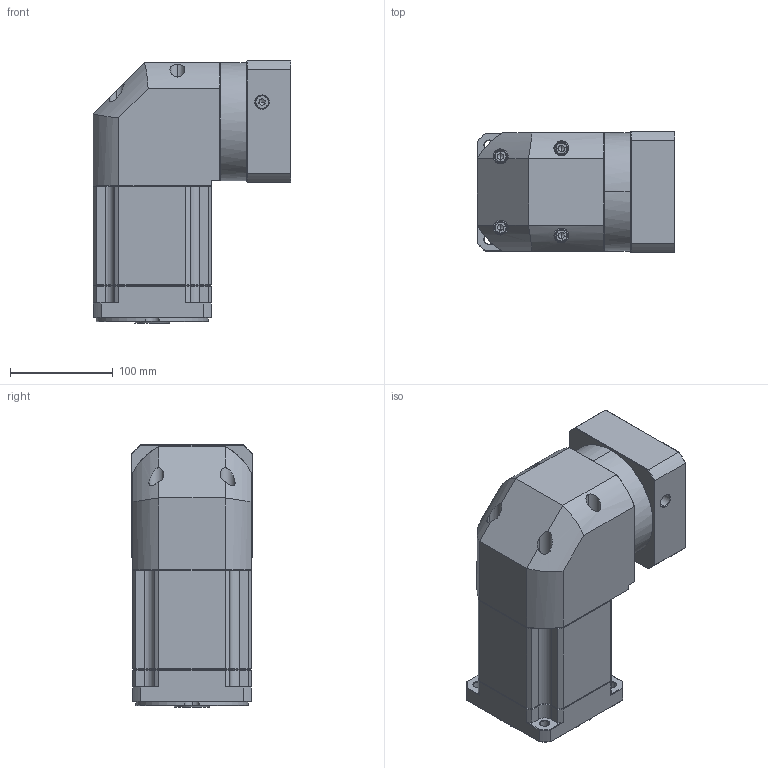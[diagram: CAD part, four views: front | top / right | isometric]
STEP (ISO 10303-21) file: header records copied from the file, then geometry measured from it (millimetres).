
FILE_DESCRIPTION (( 'STEP AP214' ), '1' );
FILE_NAME ('ZBR115A-K25-L3-P2-22-95-115-M8.step', '2023-08-26T12:46:16', ( '' ), ( '' ), 'SwSTEP 2.0', 'SolidWorks 2016', '' );
FILE_SCHEMA (( 'AUTOMOTIVE_DESIGN' ));
Length unit declared in the file: millimetre
Products named in the file (1): ZBR115A-K25-L3-P2-22-95-115-M8
Bounding box: 192.4 x 118 x 255 mm (x, y, z)
Volume: 3574366.9 mm3; surface area: 268543.3 mm2
Topology: 6 solids, 6 shells, 2325 faces, 6090 edges, 3869 vertices
Faces by surface type: plane 1132, bspline 416, cylinder 406, cone 363, torus 8
Entity records: 122698 total; most frequent: CARTESIAN_POINT 43290, ORIENTED_EDGE 12124, DIRECTION 9598, EDGE_CURVE 6062, VECTOR 3938, LINE 3938, VERTEX_POINT 3869, AXIS2_PLACEMENT_3D 2830
